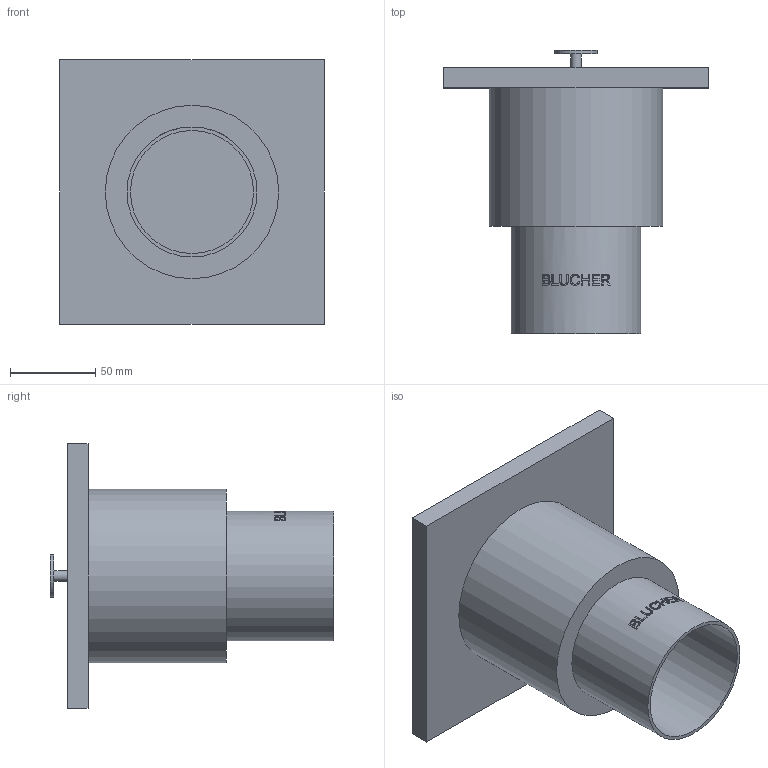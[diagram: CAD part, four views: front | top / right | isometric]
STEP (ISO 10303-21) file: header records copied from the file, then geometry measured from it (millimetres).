
FILE_DESCRIPTION((''),'2;1');
FILE_NAME('C:\Drawings\3D_CAD_Models\Blucher\BCO_Clean Outs_Complete_091119\BCO-100\WebsiteFiles\3D\STEP\BCO-113.stp','2009-11-23T14:04:55',('hofmansp'),(''),'Autodesk Inventor 2010','Autodesk Inventor 2010','');
FILE_SCHEMA(('AUTOMOTIVE_DESIGN { 1 0 10303 214 1 1 1 1 }'));
Length unit declared in the file: inch
Products named in the file (1): BCO-113
Bounding box: 154.94 x 166.12 x 154.94 mm (x, y, z)
Volume: 1024347.6 mm3; surface area: 109153.6 mm2
Topology: 1 solids, 1 shells, 114 faces, 291 edges, 194 vertices
Faces by surface type: plane 65, bspline 34, cylinder 15
Full cylindrical faces by diameter (mm): 6.096 x1, 24.892 x1, 72.136 x1, 76.2 x1, 101.6 x1
Entity records: 13916 total; most frequent: CARTESIAN_POINT 11416, ORIENTED_EDGE 572, DIRECTION 380, EDGE_CURVE 286, VERTEX_POINT 194, EDGE_LOOP 134, VECTOR 128, LINE 128
